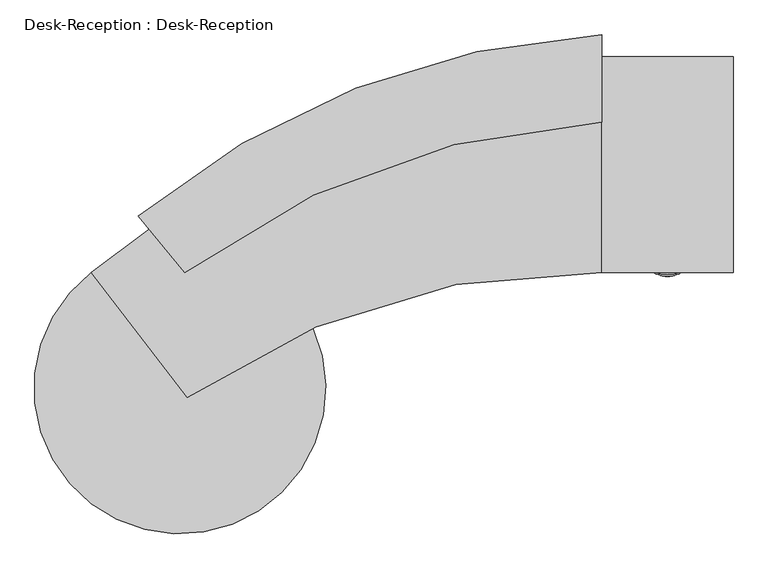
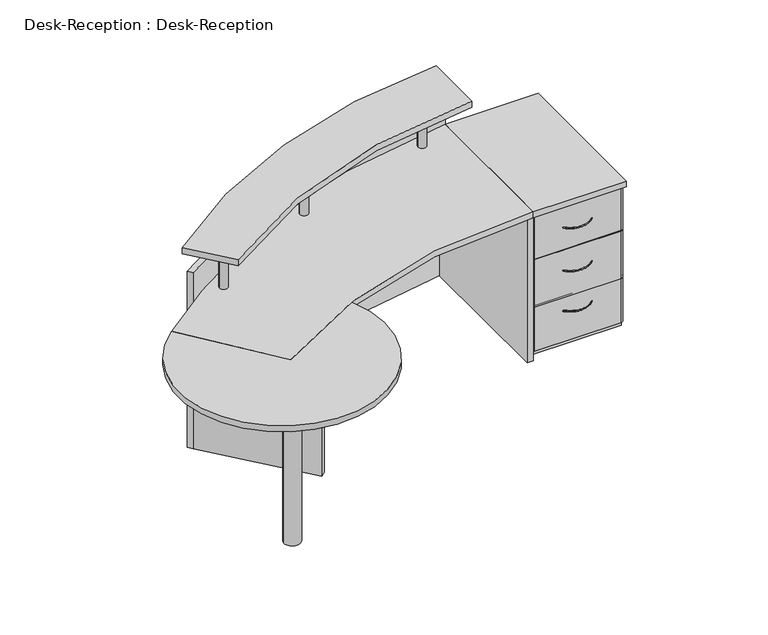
"""IFC4 building model written with IfcOpenShell, lengths in millimetres: furniture geometry, Desk-Reception : Desk-Reception."""

import ifcopenshell
import ifcopenshell.guid

model = None  # the IFC model being written
_history = None  # IfcOwnerHistory: only IFC2X3 demands one
_inside = {}  # id of a spatial element -> (the spatial element, [elements in it])
_under = {}  # id of a project, library or spatial element -> (it, [spatial elements below it])
_declared = {}  # id of a project -> (the project, [libraries it declares])
_typed = {}  # id of a type object -> (the type object, [elements of that type])
_made_of = {}  # id of a material, layer set ... -> (it, [elements and type objects made of it])


def new_model(schema):
    """Start an empty IFC model of exactly this schema.

    Asked for "IFC4X3", IfcOpenShell would pick the latest addendum, in which some entities
    have other attributes; the version numbers below select the first issue.
    IFC2X3 requires an IfcOwnerHistory on every rooted entity: one is made here for all.
    """
    global model, _history
    if schema == "IFC4X3":
        model = ifcopenshell.file(schema_version=(4, 3, 0, 0))
    else:
        model = ifcopenshell.file(schema=schema)
    _inside.clear()
    _under.clear()
    _declared.clear()
    _typed.clear()
    _made_of.clear()
    _history = None
    if model.schema == "IFC2X3":
        org = make("IfcOrganization", Name="unknown")
        user = make(
            "IfcPersonAndOrganization",
            ThePerson=make("IfcPerson", FamilyName="unknown"),
            TheOrganization=org,
        )
        app = make(
            "IfcApplication",
            ApplicationDeveloper=org,
            Version="unknown",
            ApplicationFullName="unknown",
            ApplicationIdentifier="unknown",
        )
        _history = make(
            "IfcOwnerHistory",
            OwningUser=user,
            OwningApplication=app,
            ChangeAction="ADDED",
            CreationDate=0,
        )
    return model


def make(cls, **values):
    """One entity of the class cls with the attributes given. An attribute that is None is left unset."""
    return model.create_entity(
        cls, **{name: value for name, value in values.items() if value is not None}
    )


def rooted(cls, **values):
    """An entity with a GlobalId (a new one), such as an element, a storey or a relation."""
    return make(cls, GlobalId=ifcopenshell.guid.new(), OwnerHistory=_history, **values)


def si_unit(unit_type, name, prefix=None):
    """IfcSIUnit, for example si_unit("LENGTHUNIT", "METRE", prefix="MILLI")."""
    return make("IfcSIUnit", UnitType=unit_type, Prefix=prefix, Name=name)


def assignment(units):
    """IfcUnitAssignment: the units of a project."""
    return None if units is None else make("IfcUnitAssignment", Units=units)


def point(xyz):
    """IfcCartesianPoint."""
    return None if xyz is None else make("IfcCartesianPoint", Coordinates=xyz)


def direction(xyz):
    """IfcDirection."""
    return None if xyz is None else make("IfcDirection", DirectionRatios=xyz)


def frame(location, z_axis=None, x_axis=None):
    """IfcAxis2Placement3D, a coordinate frame: its origin and axes. An axis left out is left unset."""
    return make(
        "IfcAxis2Placement3D",
        Location=point(location),
        Axis=direction(z_axis),
        RefDirection=direction(x_axis),
    )


def frame_2d(location, x_axis=None):
    """IfcAxis2Placement2D, a coordinate frame in the plane: its origin and x axis."""
    return make(
        "IfcAxis2Placement2D", Location=point(location), RefDirection=direction(x_axis)
    )


def origin():
    """The frame at (0, 0, 0) with its axes left unset."""
    return frame((0.0, 0.0, 0.0))


def origin_with_axes():
    """The frame at (0, 0, 0) with the z axis (0, 0, 1) and the x axis (1, 0, 0) written out."""
    return frame((0.0, 0.0, 0.0), z_axis=(0.0, 0.0, 1.0), x_axis=(1.0, 0.0, 0.0))


def place(relative_to, where):
    """IfcLocalPlacement: puts the frame where relative to a parent placement (None: the world)."""
    return make(
        "IfcLocalPlacement", PlacementRelTo=relative_to, RelativePlacement=where
    )


def context(
    kind, dimensions, precision=None, world=None, true_north=None, identifier=None
):
    """IfcGeometricRepresentationContext, for example the 3D "Model" context."""
    return make(
        "IfcGeometricRepresentationContext",
        ContextIdentifier=identifier,
        ContextType=kind,
        CoordinateSpaceDimension=dimensions,
        Precision=precision,
        WorldCoordinateSystem=world,
        TrueNorth=true_north,
    )


def project(units=None, contexts=None):
    """IfcProject with its units and contexts."""
    return rooted(
        "IfcProject",
        Name="project",
        RepresentationContexts=contexts,
        UnitsInContext=assignment(units),
    )


def spatial(cls, under=None, at=None, **own):
    """A site, building, storey or space (cls), placed at a placement, below another one or the project."""
    s = rooted(cls, ObjectPlacement=at, **own)
    if under is not None:
        _under.setdefault(under.id(), (under, []))[1].append(s)
    return s


def polyline(points):
    """IfcPolyline through the points."""
    return make("IfcPolyline", Points=[point(p) for p in points])


def circle_curve(where, radius):
    """IfcCircle in the frame where."""
    return make("IfcCircle", Position=where, Radius=radius)


def ellipse_curve(where, semi_axis1, semi_axis2):
    """IfcEllipse in the frame where."""
    return make(
        "IfcEllipse", Position=where, SemiAxis1=semi_axis1, SemiAxis2=semi_axis2
    )


def trimmed(basis, trim1, trim2, sense, master):
    """IfcTrimmedCurve: the piece of a basis curve between two trims."""
    return make(
        "IfcTrimmedCurve",
        BasisCurve=basis,
        Trim1=trim1,
        Trim2=trim2,
        SenseAgreement=sense,
        MasterRepresentation=master,
    )


def segment(curve, same_sense, transition):
    """IfcCompositeCurveSegment."""
    return make(
        "IfcCompositeCurveSegment",
        Transition=transition,
        SameSense=same_sense,
        ParentCurve=curve,
    )


def composite_curve(segments, self_intersect=None):
    """IfcCompositeCurve: segments joined end to end."""
    return make("IfcCompositeCurve", Segments=segments, SelfIntersect=self_intersect)


def outline(outer, holes=None, kind="AREA"):
    """IfcArbitraryClosedProfileDef: a profile drawn as a closed curve; with holes, ...WithVoids."""
    if holes is None:
        return make("IfcArbitraryClosedProfileDef", ProfileType=kind, OuterCurve=outer)
    return make(
        "IfcArbitraryProfileDefWithVoids",
        ProfileType=kind,
        OuterCurve=outer,
        InnerCurves=holes,
    )


def extrude(swept, where, along, depth):
    """IfcExtrudedAreaSolid: the profile swept, set in the frame where, extruded along a direction by depth."""
    return make(
        "IfcExtrudedAreaSolid",
        SweptArea=swept,
        Position=where,
        ExtrudedDirection=direction(along),
        Depth=depth,
    )


def shape(context_of_items, identifier, shape_type, items):
    """IfcShapeRepresentation: the items that make up one representation, for example the "Body"."""
    return make(
        "IfcShapeRepresentation",
        ContextOfItems=context_of_items,
        RepresentationIdentifier=identifier,
        RepresentationType=shape_type,
        Items=items,
    )


def source(mapping_origin, context_of_items, identifier, shape_type, items):
    """IfcRepresentationMap: a shape defined once, which mapped items show again and again."""
    return make(
        "IfcRepresentationMap",
        MappingOrigin=mapping_origin,
        MappedRepresentation=shape(context_of_items, identifier, shape_type, items),
    )


def transform(
    local_origin,
    x_axis=None,
    y_axis=None,
    z_axis=None,
    scale=None,
    scale2=None,
    scale3=None,
    uniform=True,
):
    """IfcCartesianTransformationOperator3D, or its non-uniform kind. x_axis, y_axis, z_axis: its Axis1, 2, 3."""
    if uniform:
        return make(
            "IfcCartesianTransformationOperator3D",
            Axis1=direction(x_axis),
            Axis2=direction(y_axis),
            LocalOrigin=point(local_origin),
            Scale=scale,
            Axis3=direction(z_axis),
        )
    return make(
        "IfcCartesianTransformationOperator3DnonUniform",
        Axis1=direction(x_axis),
        Axis2=direction(y_axis),
        LocalOrigin=point(local_origin),
        Scale=scale,
        Axis3=direction(z_axis),
        Scale2=scale2,
        Scale3=scale3,
    )


def mapped(mapping_source, mapping_target):
    """IfcMappedItem: shows the shape of a source again, moved by a transform."""
    return make(
        "IfcMappedItem", MappingSource=mapping_source, MappingTarget=mapping_target
    )


def made_of(thing, what):
    """Note that an element or type object is made of a material, layer set ...; save() writes the relation."""
    if what is not None:
        _made_of.setdefault(what.id(), (what, []))[1].append(thing)
    return thing


def element(
    cls,
    number,
    at=None,
    inside=None,
    cuts=None,
    type_object=None,
    material=None,
    context=None,
    identifier="Body",
    shape_type=None,
    held_by="IfcProductDefinitionShape",
    body=None,
    shapes=None,
    **own,
):
    """One element of the class cls, such as IfcWall. Its Tag is "e" and its number.

    at: its placement. inside: the storey or other place that contains it. cuts: it is an
    opening in that element (IfcRelVoidsElement). A single representation is given by context,
    identifier, shape_type and body (its items); several are given by shapes. held_by: the class
    of the entity that holds the representations. save() writes the other relations.
    """
    e = rooted(cls, Tag="e%d" % number, ObjectPlacement=at, **own)
    if body is not None:
        shapes = [shape(context, identifier, shape_type, body)]
    if shapes is not None:
        e.Representation = make(held_by, Representations=shapes)
    if inside is not None:
        _inside.setdefault(inside.id(), (inside, []))[1].append(e)
    if cuts is not None:
        rooted(
            "IfcRelVoidsElement", RelatingBuildingElement=cuts, RelatedOpeningElement=e
        )
    if type_object is not None:
        _typed.setdefault(type_object.id(), (type_object, []))[1].append(e)
    return made_of(e, material)


def aggregate(whole, parts):
    """IfcRelAggregates: a whole, such as a stair, and the parts it consists of."""
    return rooted("IfcRelAggregates", RelatingObject=whole, RelatedObjects=parts)


def save(model, path):
    """Write the relations noted so far, then the file.

    IfcRelAggregates (storeys below a building ...), IfcRelContainedInSpatialStructure (elements
    in a storey), IfcRelDefinesByType, IfcRelAssociatesMaterial and IfcRelDeclares: one each for
    every whole, place, type object, material and project.
    """
    for whole, parts in _under.values():
        aggregate(whole, parts)
    for where, things in _inside.values():
        rooted(
            "IfcRelContainedInSpatialStructure",
            RelatedElements=things,
            RelatingStructure=where,
        )
    for kind, things in _typed.values():
        rooted("IfcRelDefinesByType", RelatedObjects=things, RelatingType=kind)
    for what, things in _made_of.values():
        rooted("IfcRelAssociatesMaterial", RelatedObjects=things, RelatingMaterial=what)
    for by, libraries in _declared.values():
        rooted("IfcRelDeclares", RelatingContext=by, RelatedDefinitions=libraries)
    model.write(path)


def plane_surface(at):
    """IfcPlane: the flat surface through the origin of the frame at, square to its z axis."""
    return make("IfcPlane", Position=at)


def revolved_surface(curve, axis_point, axis_direction):
    """IfcSurfaceOfRevolution: the curve turned about the line through axis_point along axis_direction."""
    return make(
        "IfcSurfaceOfRevolution",
        SweptCurve=make("IfcArbitraryOpenProfileDef", ProfileType="CURVE", Curve=curve),
        AxisPosition=make("IfcAxis1Placement", Location=point(axis_point), Axis=direction(axis_direction)),
    )


def advanced_brep(points, edges, surfaces, faces):
    """IfcAdvancedBrep: a solid bounded by faces that lie on surfaces and meet in shared edges.

    An edge is (start, end): straight between two places in points (the first is 0);
    or (start, end, curve); or (start, end, curve, False) where it runs against its curve.
    A face is (place in surfaces, loops), or (place, loops, False) where it looks against
    its surface's normal. A loop lists edges by number (the first is 1), with a minus sign
    where the edge is run from its end to its start. The first loop is the outer one.
    """
    corners = [point(p) for p in points]
    vertices = [make("IfcVertexPoint", VertexGeometry=c) for c in corners]
    made = []
    for start, end, *more in edges:
        made.append(
            make(
                "IfcEdgeCurve",
                EdgeStart=vertices[start],
                EdgeEnd=vertices[end],
                EdgeGeometry=more[0] if more else make("IfcPolyline", Points=[corners[start], corners[end]]),
                SameSense=more[1] if len(more) > 1 else True,
            )
        )
    hull = []
    for where, loops, *sense in faces:
        bounds = []
        for j, loop in enumerate(loops):
            ring = [make("IfcOrientedEdge", EdgeElement=made[abs(k) - 1], Orientation=k > 0) for k in loop]
            bounds.append(
                make(
                    "IfcFaceOuterBound" if j == 0 else "IfcFaceBound",
                    Bound=make("IfcEdgeLoop", EdgeList=ring),
                    Orientation=True,
                )
            )
        hull.append(make("IfcAdvancedFace", Bounds=bounds, FaceSurface=surfaces[where], SameSense=sense[0] if sense else True))
    return make("IfcAdvancedBrep", Outer=make("IfcClosedShell", CfsFaces=hull))


def desk_reception_desk_reception_8679d896(model_context):
    return source(origin(), model_context, "Body", "SolidModel", [
        extrude(outline(polyline([(450.0, 640.0), (450.0, 40.0), (425.0, 40.0), (425.0, 615.0), (25.0, 615.0), (25.0, 40.0), (0.0, 40.0), (0.0, 640.0), (450.0, 640.0)])), frame((0.0, 0.0, 30.0), z_axis=(0.0, 0.0, 1.0), x_axis=(1.0, 0.0, 0.0)), (0.0, 0.0, 1.0), 702.0),
        extrude(outline(composite_curve([segment(polyline([(0.0, 40.0), (450.0, 40.0), (450.0, 35.0)]), True, "CONTINUOUS"), segment(trimmed(circle_curve(frame_2d((435.0, 35.0)), 15.0), [point((450.0, 35.0))], [point((435.0, 20.0))], False, "CARTESIAN"), True, "CONTINUOUS"), segment(polyline([(435.0, 20.0), (15.0, 20.0)]), True, "CONTINUOUS"), segment(trimmed(circle_curve(frame_2d((15.0, 35.0)), 15.0), [point((15.0, 20.0))], [point((0.0, 35.0))], False, "CARTESIAN"), True, "CONTINUOUS"), segment(polyline([(0.0, 35.0), (0.0, 40.0)]), True, "CONTINUOUS")], self_intersect=False)), frame((0.0, 0.0, 503.0), z_axis=(0.0, 0.0, 1.0), x_axis=(1.0, 0.0, 0.0)), (0.0, 0.0, 1.0), 229.0),
        extrude(outline(composite_curve([segment(polyline([(0.0, 40.0), (450.0, 40.0), (450.0, 35.0)]), True, "CONTINUOUS"), segment(trimmed(circle_curve(frame_2d((435.0, 35.0)), 15.0), [point((450.0, 35.0))], [point((435.0, 20.0))], False, "CARTESIAN"), True, "CONTINUOUS"), segment(polyline([(435.0, 20.0), (15.0, 20.0)]), True, "CONTINUOUS"), segment(trimmed(circle_curve(frame_2d((15.0, 35.0)), 15.0), [point((15.0, 20.0))], [point((0.0, 35.0))], False, "CARTESIAN"), True, "CONTINUOUS"), segment(polyline([(0.0, 35.0), (0.0, 40.0)]), True, "CONTINUOUS")], self_intersect=False)), frame((0.0, 0.0, 255.0), z_axis=(0.0, 0.0, 1.0), x_axis=(1.0, 0.0, 0.0)), (0.0, 0.0, 1.0), 243.0),
        advanced_brep(
        [(153.5169481, 18.6581516, 615.0), (156.4830519, 21.3418484, 615.0), (296.4830519, 18.6581516, 615.0), (293.5169481, 21.3418484, 615.0)],
        [
            (0, 1, circle_curve(frame((155.0, 20.0, 615.0), z_axis=(-0.6709242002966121, 0.7415259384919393, 0.0), x_axis=(0.7415259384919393, 0.6709242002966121, 0.0)), 2.0)),
            (1, 0, circle_curve(frame((155.0, 20.0, 615.0), z_axis=(-0.6709242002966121, 0.7415259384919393, 0.0), x_axis=(0.7415259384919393, 0.6709242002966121, 0.0)), 2.0)),
            (2, 3, circle_curve(frame((295.0, 20.0, 615.0), z_axis=(0.6709242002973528, 0.7415259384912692, 0.0), x_axis=(-0.7415259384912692, 0.6709242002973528, 0.0)), 2.0)),
            (3, 2, circle_curve(frame((295.0, 20.0, 615.0), z_axis=(0.6709242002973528, 0.7415259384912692, 0.0), x_axis=(-0.7415259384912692, 0.6709242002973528, 0.0)), 2.0)),
            (3, 1, circle_curve(frame((225.0, 83.3352005, 615.0), z_axis=(0.0, 0.0, -1.0), x_axis=(-0.7415259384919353, -0.6709242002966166, 0.0)), 92.3999345)),
            (0, 2, circle_curve(frame((225.0, 83.3352005, 615.0), z_axis=(0.0, 0.0, 1.0), x_axis=(-0.7415259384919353, -0.6709242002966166, 0.0)), 96.3999345)),
        ],
        [
            plane_surface(frame((225.0, 83.3352005, 615.0), z_axis=(-0.6709242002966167, 0.7415259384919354, 0.0), x_axis=(-0.7415259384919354, -0.6709242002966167, 0.0))),
            plane_surface(frame((225.0, 83.3352005, 615.0), z_axis=(0.6709242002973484, 0.7415259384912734, 0.0), x_axis=(0.7415259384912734, -0.6709242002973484, 0.0))),
            revolved_surface(trimmed(ellipse_curve(frame((155.0, 20.0, 615.0), z_axis=(-0.6709242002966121, 0.7415259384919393, 0.0), x_axis=(0.7415259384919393, 0.6709242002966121, 0.0)), 2.0, 2.0), [point((153.5169481, 18.6581516, 615.0))], [point((156.4830519, 21.3418484, 615.0))], True, "CARTESIAN"), (225.0, 83.3352005, 615.0), (0.0, 0.0, 1.0)),
            revolved_surface(trimmed(ellipse_curve(frame((155.0, 20.0, 615.0), z_axis=(-0.6709242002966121, 0.7415259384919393, 0.0), x_axis=(0.7415259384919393, 0.6709242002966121, 0.0)), 2.0, 2.0), [point((156.4830519, 21.3418484, 615.0))], [point((153.5169481, 18.6581516, 615.0))], True, "CARTESIAN"), (225.0, 83.3352005, 615.0), (0.0, 0.0, 1.0)),
        ],
        [
            (0, [[1, 2]]),
            (1, [[3, 4]]),
            (2, [[5, -1, 6, -4]]),
            (3, [[-6, -2, -5, -3]]),
        ],
    ),
        advanced_brep(
        [(153.5169481, 18.6581516, 395.0), (156.4830519, 21.3418484, 395.0), (296.4830519, 18.6581516, 395.0), (293.5169481, 21.3418484, 395.0)],
        [
            (0, 1, circle_curve(frame((155.0, 20.0, 395.0), z_axis=(-0.6709242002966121, 0.7415259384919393, 0.0), x_axis=(0.7415259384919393, 0.6709242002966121, 0.0)), 2.0)),
            (1, 0, circle_curve(frame((155.0, 20.0, 395.0), z_axis=(-0.6709242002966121, 0.7415259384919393, 0.0), x_axis=(0.7415259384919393, 0.6709242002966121, 0.0)), 2.0)),
            (2, 3, circle_curve(frame((295.0, 20.0, 395.0), z_axis=(0.6709242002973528, 0.7415259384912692, 0.0), x_axis=(-0.7415259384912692, 0.6709242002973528, 0.0)), 2.0)),
            (3, 2, circle_curve(frame((295.0, 20.0, 395.0), z_axis=(0.6709242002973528, 0.7415259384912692, 0.0), x_axis=(-0.7415259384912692, 0.6709242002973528, 0.0)), 2.0)),
            (3, 1, circle_curve(frame((225.0, 83.3352005, 395.0), z_axis=(0.0, 0.0, -1.0), x_axis=(-0.7415259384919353, -0.6709242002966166, 0.0)), 92.3999345)),
            (0, 2, circle_curve(frame((225.0, 83.3352005, 395.0), z_axis=(0.0, 0.0, 1.0), x_axis=(-0.7415259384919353, -0.6709242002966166, 0.0)), 96.3999345)),
        ],
        [
            plane_surface(frame((225.0, 83.3352005, 395.0), z_axis=(-0.6709242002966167, 0.7415259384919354, 0.0), x_axis=(-0.7415259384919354, -0.6709242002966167, 0.0))),
            plane_surface(frame((225.0, 83.3352005, 395.0), z_axis=(0.6709242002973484, 0.7415259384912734, 0.0), x_axis=(0.7415259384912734, -0.6709242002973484, 0.0))),
            revolved_surface(trimmed(ellipse_curve(frame((155.0, 20.0, 395.0), z_axis=(-0.6709242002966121, 0.7415259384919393, 0.0), x_axis=(0.7415259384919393, 0.6709242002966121, 0.0)), 2.0, 2.0), [point((153.5169481, 18.6581516, 395.0))], [point((156.4830519, 21.3418484, 395.0))], True, "CARTESIAN"), (225.0, 83.3352005, 395.0), (0.0, 0.0, 1.0)),
            revolved_surface(trimmed(ellipse_curve(frame((155.0, 20.0, 395.0), z_axis=(-0.6709242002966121, 0.7415259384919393, 0.0), x_axis=(0.7415259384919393, 0.6709242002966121, 0.0)), 2.0, 2.0), [point((156.4830519, 21.3418484, 395.0))], [point((153.5169481, 18.6581516, 395.0))], True, "CARTESIAN"), (225.0, 83.3352005, 395.0), (0.0, 0.0, 1.0)),
        ],
        [
            (0, [[1, 2]]),
            (1, [[3, 4]]),
            (2, [[5, -1, 6, -4]]),
            (3, [[-6, -2, -5, -3]]),
        ],
    ),
        advanced_brep(
        [(153.5169481, 18.6581516, 189.0), (156.4830519, 21.3418484, 189.0), (296.4830519, 18.6581516, 189.0), (293.5169481, 21.3418484, 189.0)],
        [
            (0, 1, circle_curve(frame((155.0, 20.0, 189.0), z_axis=(-0.6709242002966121, 0.7415259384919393, 0.0), x_axis=(0.7415259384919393, 0.6709242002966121, 0.0)), 2.0)),
            (1, 0, circle_curve(frame((155.0, 20.0, 189.0), z_axis=(-0.6709242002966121, 0.7415259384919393, 0.0), x_axis=(0.7415259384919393, 0.6709242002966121, 0.0)), 2.0)),
            (2, 3, circle_curve(frame((295.0, 20.0, 189.0), z_axis=(0.6709242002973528, 0.7415259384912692, 0.0), x_axis=(-0.7415259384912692, 0.6709242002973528, 0.0)), 2.0)),
            (3, 2, circle_curve(frame((295.0, 20.0, 189.0), z_axis=(0.6709242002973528, 0.7415259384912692, 0.0), x_axis=(-0.7415259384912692, 0.6709242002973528, 0.0)), 2.0)),
            (3, 1, circle_curve(frame((225.0, 83.3352005, 189.0), z_axis=(0.0, 0.0, -1.0), x_axis=(-0.7415259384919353, -0.6709242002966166, 0.0)), 92.3999345)),
            (0, 2, circle_curve(frame((225.0, 83.3352005, 189.0), z_axis=(0.0, 0.0, 1.0), x_axis=(-0.7415259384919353, -0.6709242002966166, 0.0)), 96.3999345)),
        ],
        [
            plane_surface(frame((225.0, 83.3352005, 189.0), z_axis=(-0.6709242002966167, 0.7415259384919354, 0.0), x_axis=(-0.7415259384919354, -0.6709242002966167, 0.0))),
            plane_surface(frame((225.0, 83.3352005, 189.0), z_axis=(0.6709242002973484, 0.7415259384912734, 0.0), x_axis=(0.7415259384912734, -0.6709242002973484, 0.0))),
            revolved_surface(trimmed(ellipse_curve(frame((155.0, 20.0, 189.0), z_axis=(-0.6709242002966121, 0.7415259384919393, 0.0), x_axis=(0.7415259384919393, 0.6709242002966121, 0.0)), 2.0, 2.0), [point((153.5169481, 18.6581516, 189.0))], [point((156.4830519, 21.3418484, 189.0))], True, "CARTESIAN"), (225.0, 83.3352005, 189.0), (0.0, 0.0, 1.0)),
            revolved_surface(trimmed(ellipse_curve(frame((155.0, 20.0, 189.0), z_axis=(-0.6709242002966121, 0.7415259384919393, 0.0), x_axis=(0.7415259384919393, 0.6709242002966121, 0.0)), 2.0, 2.0), [point((156.4830519, 21.3418484, 189.0))], [point((153.5169481, 18.6581516, 189.0))], True, "CARTESIAN"), (225.0, 83.3352005, 189.0), (0.0, 0.0, 1.0)),
        ],
        [
            (0, [[1, 2]]),
            (1, [[3, 4]]),
            (2, [[5, -1, 6, -4]]),
            (3, [[-6, -2, -5, -3]]),
        ],
    ),
        extrude(outline(composite_curve([segment(polyline([(450.0, 40.0), (450.0, 35.0)]), True, "CONTINUOUS"), segment(trimmed(circle_curve(frame_2d((435.0, 35.0)), 15.0), [point((450.0, 35.0))], [point((435.0, 20.0))], False, "CARTESIAN"), True, "CONTINUOUS"), segment(polyline([(435.0, 20.0), (15.0, 20.0)]), True, "CONTINUOUS"), segment(trimmed(circle_curve(frame_2d((15.0, 35.0)), 15.0), [point((15.0, 20.0))], [point((0.0, 35.0))], False, "CARTESIAN"), True, "CONTINUOUS"), segment(polyline([(0.0, 35.0), (0.0, 40.0), (450.0, 40.0)]), True, "CONTINUOUS")], self_intersect=False)), frame((0.0, 0.0, 30.0), z_axis=(0.0, 0.0, 1.0), x_axis=(1.0, 0.0, 0.0)), (0.0, 0.0, 1.0), 234.0),
        extrude(outline(polyline([(0.0, 40.0), (0.0, 640.0), (450.0, 640.0), (450.0, 40.0), (0.0, 40.0)])), origin_with_axes(), (0.0, 0.0, 1.0), 30.0),
        extrude(outline(polyline([(450.0, 740.0), (450.0, 0.0), (0.0, 0.0), (0.0, 740.0), (450.0, 740.0)])), frame((0.0, 0.0, 732.0), z_axis=(0.0, 0.0, 1.0), x_axis=(1.0, 0.0, 0.0)), (0.0, 0.0, 1.0), 30.0),
        extrude(outline(composite_curve([segment(trimmed(circle_curve(frame_2d((-1533.8676519, -633.6842561)), 40.0), [point((-1573.8676519, -633.6842561))], [point((-1493.8676519, -633.6842561))], False, "CARTESIAN"), True, "CONTINUOUS"), segment(trimmed(circle_curve(frame_2d((-1533.8676519, -633.6842561)), 40.0), [point((-1493.8676519, -633.6842561))], [point((-1573.8676519, -633.6842561))], False, "CARTESIAN"), True, "CONTINUOUS")], self_intersect=False)), origin_with_axes(), (0.0, 0.0, 1.0), 732.0),
        extrude(outline(polyline([(-30.0, 0.0), (-30.0, 740.0), (0.0, 740.0), (0.0, 0.0), (-30.0, 0.0)])), origin_with_axes(), (0.0, 0.0, 1.0), 732.0),
        extrude(outline(polyline([(-1191.2115247, -287.2473325), (-1557.6726959, 155.8469799), (-1533.5016776, 173.693331), (-1168.0936082, -268.1276585), (-1191.2115247, -287.2473325)])), origin_with_axes(), (0.0, 0.0, 1.0), 732.0),
        extrude(outline(composite_curve([segment(polyline([(-1558.3600202, 155.3353685), (-1573.1206456, 176.6067149)]), True, "CONTINUOUS"), segment(trimmed(circle_curve(frame_2d((192.0822124, -2145.6826148)), 2917.0136888), [point((-1573.1206456, 176.6067149))], [point((0.0, 765.0))], False, "CARTESIAN"), True, "CONTINUOUS"), segment(polyline([(0.0, 765.0), (0.0, 740.0)]), True, "CONTINUOUS"), segment(trimmed(circle_curve(frame_2d((233.2734048, -2250.9168358)), 3000.0), [point((0.0, 740.0))], [point((-1558.3600202, 155.3353685))], True, "CARTESIAN"), True, "CONTINUOUS")], self_intersect=False)), origin_with_axes(), (0.0, 0.0, 1.0), 901.0),
        extrude(outline(composite_curve([segment(trimmed(circle_curve(frame_2d((-1399.0988912, 175.1627766)), 20.0), [point((-1419.0988912, 175.1627766))], [point((-1379.0988912, 175.1627766))], False, "CARTESIAN"), True, "CONTINUOUS"), segment(trimmed(circle_curve(frame_2d((-1399.0988912, 175.1627766)), 20.0), [point((-1379.0988912, 175.1627766))], [point((-1419.0988912, 175.1627766))], False, "CARTESIAN"), True, "CONTINUOUS")], self_intersect=False)), frame((0.0, 0.0, 762.0), z_axis=(0.0, 0.0, 1.0), x_axis=(1.0, 0.0, 0.0)), (0.0, 0.0, 1.0), 224.0),
        extrude(outline(composite_curve([segment(trimmed(circle_curve(frame_2d((-162.5566722, 651.831782)), 20.0), [point((-182.5566722, 651.831782))], [point((-142.5566722, 651.831782))], False, "CARTESIAN"), True, "CONTINUOUS"), segment(trimmed(circle_curve(frame_2d((-162.5566722, 651.831782)), 20.0), [point((-142.5566722, 651.831782))], [point((-182.5566722, 651.831782))], False, "CARTESIAN"), True, "CONTINUOUS")], self_intersect=False)), frame((0.0, 0.0, 762.0), z_axis=(0.0, 0.0, 1.0), x_axis=(1.0, 0.0, 0.0)), (0.0, 0.0, 1.0), 224.0),
        extrude(outline(composite_curve([segment(trimmed(circle_curve(frame_2d((-837.953128, 472.7004825)), 20.0), [point((-857.953128, 472.7004825))], [point((-817.953128, 472.7004825))], False, "CARTESIAN"), True, "CONTINUOUS"), segment(trimmed(circle_curve(frame_2d((-837.953128, 472.7004825)), 20.0), [point((-817.953128, 472.7004825))], [point((-857.953128, 472.7004825))], False, "CARTESIAN"), True, "CONTINUOUS")], self_intersect=False)), frame((0.0, 0.0, 762.0), z_axis=(0.0, 0.0, 1.0), x_axis=(1.0, 0.0, 0.0)), (0.0, 0.0, 1.0), 224.0),
        extrude(outline(composite_curve([segment(trimmed(circle_curve(frame_2d((150.3989695, -1909.4109511)), 2728.5591217), [point((-1588.5730571, 193.2091219))], [point((0.0, 815.0))], False, "CARTESIAN"), True, "CONTINUOUS"), segment(polyline([(0.0, 815.0), (0.0, 515.0)]), True, "CONTINUOUS"), segment(trimmed(circle_curve(frame_2d((128.0395328, -2082.0016736)), 2600.1561135), [point((0.0, 515.0))], [point((-1429.0734043, 0.3554322))], True, "CARTESIAN"), True, "CONTINUOUS"), segment(polyline([(-1429.0734043, 0.3554322), (-1588.5730571, 193.2091219)]), True, "CONTINUOUS")], self_intersect=False)), frame((0.0, 0.0, 986.0), z_axis=(0.0, 0.0, 1.0), x_axis=(1.0, 0.0, 0.0)), (0.0, 0.0, 1.0), 30.0),
        extrude(outline(composite_curve([segment(trimmed(circle_curve(frame_2d((233.2734048, -2250.9168358)), 3000.0), [point((-1750.0, 0.0))], [point((0.0, 740.0))], False, "CARTESIAN"), True, "CONTINUOUS"), segment(polyline([(0.0, 740.0), (0.0, 0.0)]), True, "CONTINUOUS"), segment(trimmed(circle_curve(frame_2d((-50.5006514, -2404.1685588)), 2404.6988949), [point((0.0, 0.0))], [point((-1421.4325265, -428.5363641))], True, "CARTESIAN"), True, "CONTINUOUS"), segment(polyline([(-1421.4325265, -428.5363641), (-1750.0, 0.0)]), True, "CONTINUOUS")], self_intersect=False)), frame((0.0, 0.0, 732.0), z_axis=(0.0, 0.0, 1.0), x_axis=(1.0, 0.0, 0.0)), (0.0, 0.0, 1.0), 30.0),
        extrude(outline(composite_curve([segment(trimmed(circle_curve(frame_2d((-1445.7708579, -396.7929297)), 500.0), [point((-990.2260619, -190.6887356))], [point((-1750.0, 0.0))], False, "CARTESIAN"), True, "CONTINUOUS"), segment(polyline([(-1750.0, 0.0), (-1421.4325265, -428.5363641)]), True, "CONTINUOUS"), segment(trimmed(circle_curve(frame_2d((-50.5006514, -2404.1685588)), 2404.6988949), [point((-1421.4325265, -428.5363641))], [point((-990.2260619, -190.6887356))], False, "CARTESIAN"), True, "CONTINUOUS")], self_intersect=False)), frame((0.0, 0.0, 732.0), z_axis=(0.0, 0.0, 1.0), x_axis=(1.0, 0.0, 0.0)), (0.0, 0.0, 1.0), 30.0),
    ])


if __name__ == "__main__":
    model = new_model("IFC4")
    model_context = context("Model", 3, world=origin())
    ifc_project = project(units=[si_unit("LENGTHUNIT", "METRE", prefix="MILLI")], contexts=[model_context])
    site = spatial("IfcSite", under=ifc_project)
    building = spatial("IfcBuilding", under=site)
    placement = place(None, origin())
    desk_reception_desk_reception_shape = desk_reception_desk_reception_8679d896(model_context)
    element("IfcFurniture", 1, ObjectType="Desk-Reception : Desk-Reception", at=placement, inside=building, context=model_context, shape_type="MappedRepresentation", body=[
        mapped(desk_reception_desk_reception_shape, transform((0.0, 0.0, 0.0), x_axis=(1.0, 0.0, 0.0), y_axis=(0.0, 1.0, 0.0), z_axis=(0.0, 0.0, 1.0))),
    ])
    save(model, "model.ifc")
